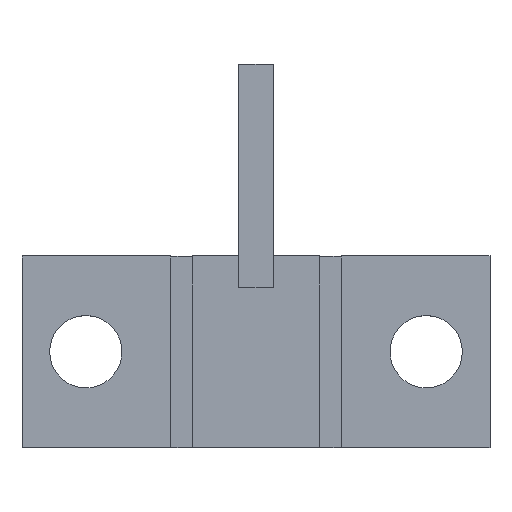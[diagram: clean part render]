
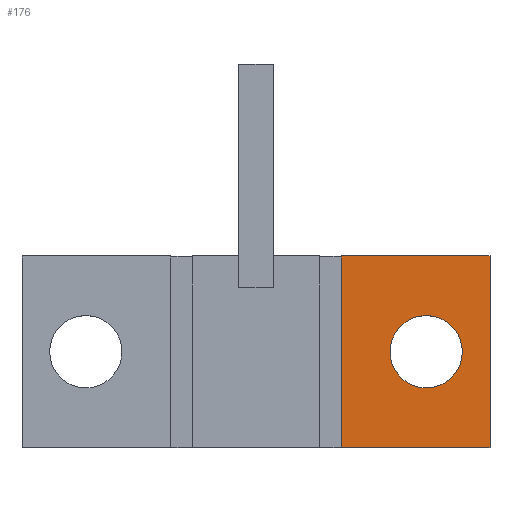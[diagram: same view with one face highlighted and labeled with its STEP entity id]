
A CAD part, top view. The second image highlights one B-rep face of the part: STEP entity #176.
In plain terms, the highlighted planar face has unit normal (0, 0, 1).
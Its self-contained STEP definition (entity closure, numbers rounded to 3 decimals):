
#176=ADVANCED_FACE('',(#349,#351),#353,.T.);
#349=FACE_BOUND('',#350,.T.);
#350=EDGE_LOOP('',(#671,#672,#673,#674));
#351=FACE_BOUND('',#352,.T.);
#352=EDGE_LOOP('',(#675));
#353=PLANE('',#354);
#354=AXIS2_PLACEMENT_3D('',#355,#356,#357);
#355=CARTESIAN_POINT('',(0.,0.,2.));
#356=DIRECTION('',(0.,0.,1.));
#357=DIRECTION('',(-1.,0.,0.));
#671=ORIENTED_EDGE('',*,*,#884,.T.);
#672=ORIENTED_EDGE('',*,*,#890,.T.);
#673=ORIENTED_EDGE('',*,*,#867,.T.);
#674=ORIENTED_EDGE('',*,*,#889,.T.);
#675=ORIENTED_EDGE('',*,*,#891,.T.);
#867=EDGE_CURVE('',#1043,#1041,#1044,.T.);
#884=EDGE_CURVE('',#1074,#1072,#1075,.T.);
#889=EDGE_CURVE('',#1041,#1074,#1081,.T.);
#890=EDGE_CURVE('',#1072,#1043,#1082,.T.);
#891=EDGE_CURVE('',#1083,#1083,#1084,.F.);
#1041=VERTEX_POINT('',#1230);
#1043=VERTEX_POINT('',#1234);
#1044=LINE('',#1235,#1236);
#1072=VERTEX_POINT('',#1295);
#1074=VERTEX_POINT('',#1299);
#1075=LINE('',#1300,#1301);
#1081=LINE('',#1316,#1317);
#1082=LINE('',#1319,#1320);
#1083=VERTEX_POINT('',#1322);
#1084=CIRCLE('',#1323,1.7);
#1230=CARTESIAN_POINT('',(4.,4.5,2.));
#1234=CARTESIAN_POINT('',(11.,4.5,2.));
#1235=CARTESIAN_POINT('',(11.,4.5,2.));
#1236=VECTOR('',#1237,1.);
#1237=DIRECTION('',(-1.,0.,0.));
#1295=CARTESIAN_POINT('',(11.,-4.5,2.));
#1299=CARTESIAN_POINT('',(4.,-4.5,2.));
#1300=CARTESIAN_POINT('',(4.,-4.5,2.));
#1301=VECTOR('',#1302,1.);
#1302=DIRECTION('',(1.,0.,0.));
#1316=CARTESIAN_POINT('',(4.,4.5,2.));
#1317=VECTOR('',#1318,1.);
#1318=DIRECTION('',(0.,-1.,0.));
#1319=CARTESIAN_POINT('',(11.,-4.5,2.));
#1320=VECTOR('',#1321,1.);
#1321=DIRECTION('',(0.,1.,0.));
#1322=CARTESIAN_POINT('',(6.3,0.,2.));
#1323=AXIS2_PLACEMENT_3D('',#1324,#1325,#1326);
#1324=CARTESIAN_POINT('',(8.,0.,2.));
#1325=DIRECTION('',(0.,0.,1.));
#1326=DIRECTION('',(-1.,0.,0.));
